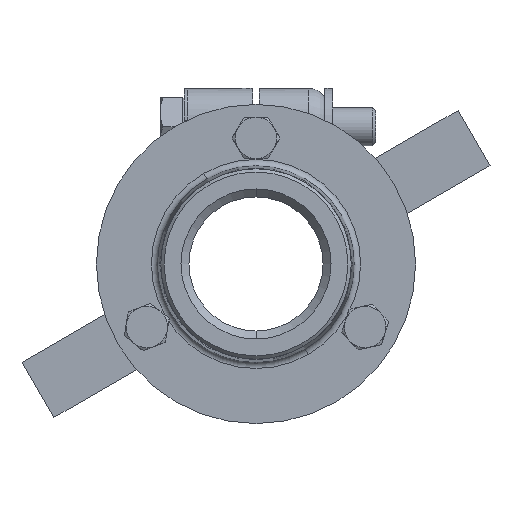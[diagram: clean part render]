
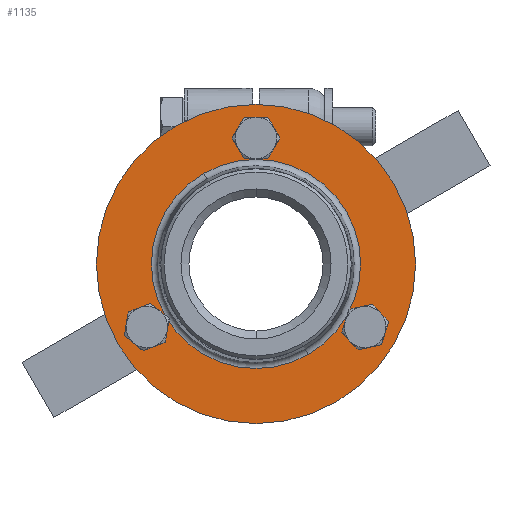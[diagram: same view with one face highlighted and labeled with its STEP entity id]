
A CAD part, front view. The second image highlights one B-rep face of the part: STEP entity #1135.
In plain terms, the highlighted planar face has unit normal (0, -1, 0).
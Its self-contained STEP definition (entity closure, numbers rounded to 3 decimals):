
#1135 = ADVANCED_FACE ( 'NONE', ( #7576, #7580, #7577, #7575, #7578 ), #13456, .T. ) ;
#1745 = CIRCLE ( 'NONE', #20122, 5.25 ) ;
#1747 = CIRCLE ( 'NONE', #20123, 32.751 ) ;
#2746 = ORIENTED_EDGE ( 'NONE', *, *, #13436, .F. ) ;
#2747 = ORIENTED_EDGE ( 'NONE', *, *, #13404, .F. ) ;
#2748 = ORIENTED_EDGE ( 'NONE', *, *, #13437, .F. ) ;
#2749 = ORIENTED_EDGE ( 'NONE', *, *, #13408, .F. ) ;
#2750 = ORIENTED_EDGE ( 'NONE', *, *, #21942, .F. ) ;
#2751 = ORIENTED_EDGE ( 'NONE', *, *, #13412, .F. ) ;
#2752 = ORIENTED_EDGE ( 'NONE', *, *, #21943, .T. ) ;
#2753 = ORIENTED_EDGE ( 'NONE', *, *, #13417, .T. ) ;
#2754 = ORIENTED_EDGE ( 'NONE', *, *, #13421, .F. ) ;
#2755 = ORIENTED_EDGE ( 'NONE', *, *, #13435, .F. ) ;
#3321 = CARTESIAN_POINT ( 'NONE',  ( 16.375, 9., -28.363 ) ) ;
#3322 = CARTESIAN_POINT ( 'NONE',  ( 25., 9., -43.301 ) ) ;
#3323 = CARTESIAN_POINT ( 'NONE',  ( -25., 9., 43.301 ) ) ;
#4278 = CARTESIAN_POINT ( 'NONE',  ( 0., 9., 39.5 ) ) ;
#4280 = DIRECTION ( 'NONE',  ( 0., -1., 0. ) ) ;
#4282 = DIRECTION ( 'NONE',  ( 1., 0., 0. ) ) ;
#4300 = CARTESIAN_POINT ( 'NONE',  ( 34.208, 9., -19.75 ) ) ;
#4302 = DIRECTION ( 'NONE',  ( 0., -1., 0. ) ) ;
#4304 = DIRECTION ( 'NONE',  ( -0.5, 0., -0.866 ) ) ;
#4323 = CARTESIAN_POINT ( 'NONE',  ( -34.208, 9., -19.75 ) ) ;
#4325 = DIRECTION ( 'NONE',  ( 0., -1., 0. ) ) ;
#4327 = DIRECTION ( 'NONE',  ( -0.5, 0., 0.866 ) ) ;
#4346 = CARTESIAN_POINT ( 'NONE',  ( 0., 9., 0. ) ) ;
#4348 = DIRECTION ( 'NONE',  ( 0., 1., 0. ) ) ;
#4350 = DIRECTION ( 'NONE',  ( 0.5, 0., -0.866 ) ) ;
#4368 = CARTESIAN_POINT ( 'NONE',  ( 0., 9., 0. ) ) ;
#4369 = DIRECTION ( 'NONE',  ( 0., 1., 0. ) ) ;
#4370 = DIRECTION ( 'NONE',  ( 0.5, 0., -0.866 ) ) ;
#4403 = CARTESIAN_POINT ( 'NONE',  ( 0., 9., 0. ) ) ;
#4404 = DIRECTION ( 'NONE',  ( 0., 1., 0. ) ) ;
#4405 = DIRECTION ( 'NONE',  ( 0.5, 0., -0.866 ) ) ;
#4408 = CARTESIAN_POINT ( 'NONE',  ( 0., 9., 39.5 ) ) ;
#4409 = DIRECTION ( 'NONE',  ( 0., -1., 0. ) ) ;
#4410 = DIRECTION ( 'NONE',  ( 1., 0., 0. ) ) ;
#4411 = CARTESIAN_POINT ( 'NONE',  ( 34.208, 9., -19.75 ) ) ;
#4412 = DIRECTION ( 'NONE',  ( 0., -1., 0. ) ) ;
#4413 = DIRECTION ( 'NONE',  ( -0.5, 0., -0.866 ) ) ;
#4903 = AXIS2_PLACEMENT_3D ( 'NONE', #13465, #13466, #13467 ) ;
#7575 = FACE_BOUND ( 'NONE', #22515, .T. ) ;
#7576 = FACE_BOUND ( 'NONE', #22513, .T. ) ;
#7577 = FACE_BOUND ( 'NONE', #22516, .T. ) ;
#7578 = FACE_OUTER_BOUND ( 'NONE', #22512, .T. ) ;
#7580 = FACE_BOUND ( 'NONE', #22514, .T. ) ;
#9574 = CARTESIAN_POINT ( 'NONE',  ( -16.375, 9., 28.363 ) ) ;
#9583 = CARTESIAN_POINT ( 'NONE',  ( 2.625, 9., 34.953 ) ) ;
#9584 = CARTESIAN_POINT ( 'NONE',  ( -2.625, 9., 44.047 ) ) ;
#9587 = CARTESIAN_POINT ( 'NONE',  ( 36.833, 9., -24.297 ) ) ;
#9588 = CARTESIAN_POINT ( 'NONE',  ( 31.583, 9., -15.203 ) ) ;
#9591 = CARTESIAN_POINT ( 'NONE',  ( -31.583, 9., -24.297 ) ) ;
#9592 = CARTESIAN_POINT ( 'NONE',  ( -36.833, 9., -15.203 ) ) ;
#11086 = VERTEX_POINT ( 'NONE', #9574 ) ;
#11105 = VERTEX_POINT ( 'NONE', #9583 ) ;
#11107 = VERTEX_POINT ( 'NONE', #9584 ) ;
#11113 = VERTEX_POINT ( 'NONE', #9587 ) ;
#11116 = VERTEX_POINT ( 'NONE', #9588 ) ;
#11122 = VERTEX_POINT ( 'NONE', #9591 ) ;
#11124 = VERTEX_POINT ( 'NONE', #9592 ) ;
#11129 = VERTEX_POINT ( 'NONE', #3321 ) ;
#11131 = VERTEX_POINT ( 'NONE', #3322 ) ;
#11133 = VERTEX_POINT ( 'NONE', #3323 ) ;
#13404 = EDGE_CURVE ( 'NONE', #11105, #11107, #17435, .T. ) ;
#13408 = EDGE_CURVE ( 'NONE', #11113, #11116, #17441, .T. ) ;
#13412 = EDGE_CURVE ( 'NONE', #11122, #11124, #17447, .T. ) ;
#13417 = EDGE_CURVE ( 'NONE', #11086, #11129, #17455, .T. ) ;
#13421 = EDGE_CURVE ( 'NONE', #11131, #11133, #17461, .T. ) ;
#13435 = EDGE_CURVE ( 'NONE', #11133, #11131, #17479, .T. ) ;
#13436 = EDGE_CURVE ( 'NONE', #11107, #11105, #17480, .T. ) ;
#13437 = EDGE_CURVE ( 'NONE', #11116, #11113, #17481, .T. ) ;
#13456 = PLANE ( 'NONE',  #4903 ) ;
#13465 = CARTESIAN_POINT ( 'NONE',  ( -43.301, 9., -25. ) ) ;
#13466 = DIRECTION ( 'NONE',  ( 0., -1., 0. ) ) ;
#13467 = DIRECTION ( 'NONE',  ( -0.5, 0., 0.866 ) ) ;
#17435 = CIRCLE ( 'NONE', #19910, 5.25 ) ;
#17441 = CIRCLE ( 'NONE', #19912, 5.25 ) ;
#17447 = CIRCLE ( 'NONE', #19914, 5.25 ) ;
#17455 = CIRCLE ( 'NONE', #19916, 32.751 ) ;
#17461 = CIRCLE ( 'NONE', #19920, 50. ) ;
#17479 = CIRCLE ( 'NONE', #19930, 50. ) ;
#17480 = CIRCLE ( 'NONE', #19931, 5.25 ) ;
#17481 = CIRCLE ( 'NONE', #19932, 5.25 ) ;
#19910 = AXIS2_PLACEMENT_3D ( 'NONE', #4278, #4280, #4282 ) ;
#19912 = AXIS2_PLACEMENT_3D ( 'NONE', #4300, #4302, #4304 ) ;
#19914 = AXIS2_PLACEMENT_3D ( 'NONE', #4323, #4325, #4327 ) ;
#19916 = AXIS2_PLACEMENT_3D ( 'NONE', #4346, #4348, #4350 ) ;
#19920 = AXIS2_PLACEMENT_3D ( 'NONE', #4368, #4369, #4370 ) ;
#19930 = AXIS2_PLACEMENT_3D ( 'NONE', #4403, #4404, #4405 ) ;
#19931 = AXIS2_PLACEMENT_3D ( 'NONE', #4408, #4409, #4410 ) ;
#19932 = AXIS2_PLACEMENT_3D ( 'NONE', #4411, #4412, #4413 ) ;
#20122 = AXIS2_PLACEMENT_3D ( 'NONE', #25527, #25528, #25529 ) ;
#20123 = AXIS2_PLACEMENT_3D ( 'NONE', #25530, #25531, #25532 ) ;
#21942 = EDGE_CURVE ( 'NONE', #11124, #11122, #1745, .T. ) ;
#21943 = EDGE_CURVE ( 'NONE', #11129, #11086, #1747, .T. ) ;
#22512 = EDGE_LOOP ( 'NONE', ( #2754, #2755 ) ) ;
#22513 = EDGE_LOOP ( 'NONE', ( #2746, #2747 ) ) ;
#22514 = EDGE_LOOP ( 'NONE', ( #2748, #2749 ) ) ;
#22515 = EDGE_LOOP ( 'NONE', ( #2752, #2753 ) ) ;
#22516 = EDGE_LOOP ( 'NONE', ( #2750, #2751 ) ) ;
#25527 = CARTESIAN_POINT ( 'NONE',  ( -34.208, 9., -19.75 ) ) ;
#25528 = DIRECTION ( 'NONE',  ( 0., -1., 0. ) ) ;
#25529 = DIRECTION ( 'NONE',  ( -0.5, 0., 0.866 ) ) ;
#25530 = CARTESIAN_POINT ( 'NONE',  ( 0., 9., 0. ) ) ;
#25531 = DIRECTION ( 'NONE',  ( 0., 1., 0. ) ) ;
#25532 = DIRECTION ( 'NONE',  ( 0.5, 0., -0.866 ) ) ;
